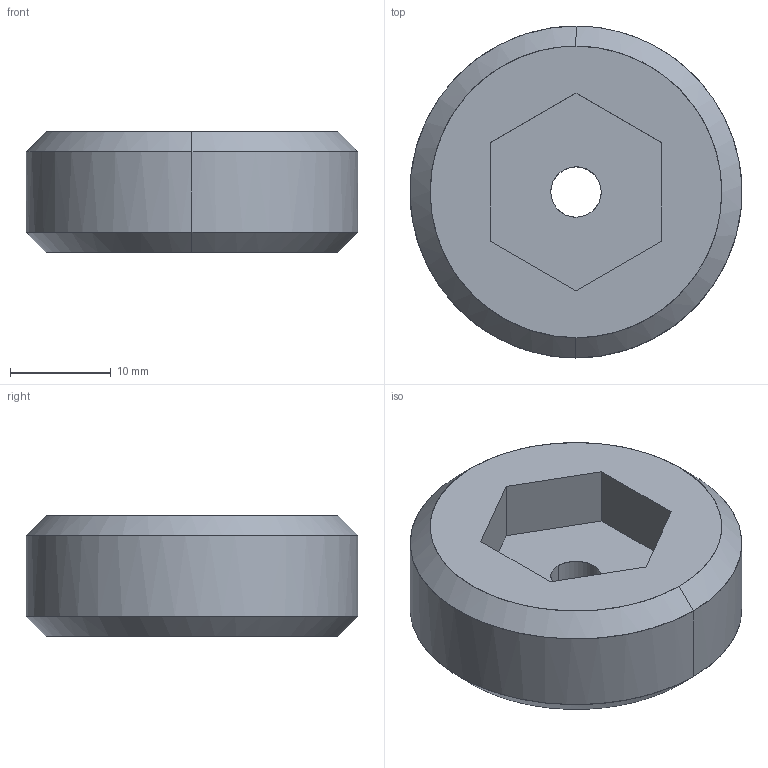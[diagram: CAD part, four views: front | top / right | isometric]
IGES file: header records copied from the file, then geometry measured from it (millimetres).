
Global section: file name: E:\UnigraphicsGraphicData\MISUMI_PRESS-PARTS\IGES\3d_mswh33_00468_r00.igs; native system: NX V5.0; preprocessor: UGS NX IGES V5.0; author: MISUMI; date: 20110105.161524; units: millimetre
Bounding box: 32.97 x 33 x 12 mm (x, y, z)
Surface area: 3109.8 mm2 (no closed solid volume)
Topology: 0 solids, 0 shells, 17 faces, 116 edges, 116 vertices
Faces by surface type: bspline 17
